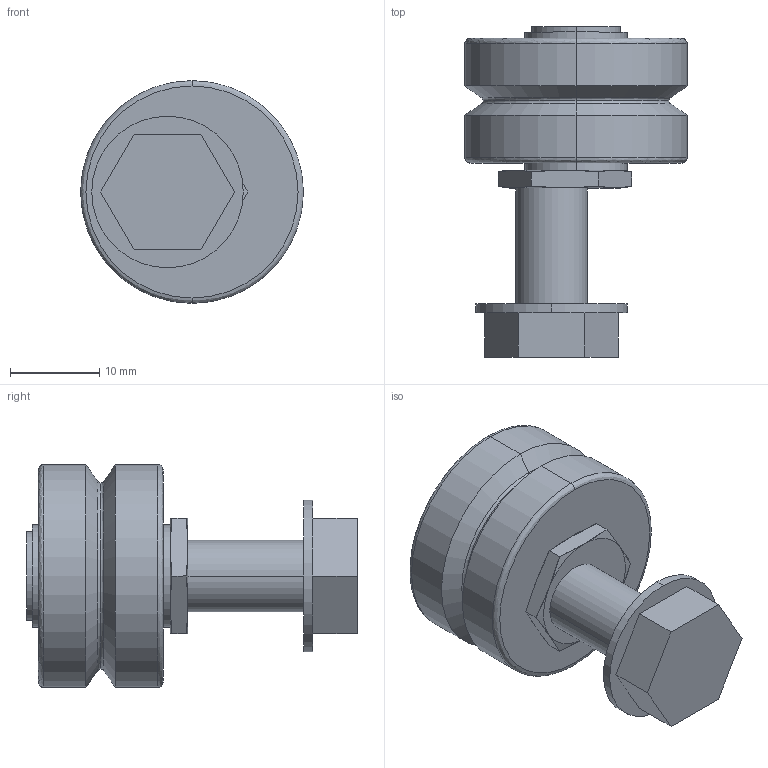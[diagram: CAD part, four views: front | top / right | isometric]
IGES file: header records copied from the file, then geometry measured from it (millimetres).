
Start section: 3D InterOp IGES (Version 21 0 1), Spatial Corp. Copyright (c) 1999-2007.
Global section: file name: RLFJ25DENS.igs; native system: Spatial Corp.; preprocessor: 3D InterOp GENERIC/IGES 3.0; author: Noname; organization: Noname; date: 20220627.163910; units: millimetre
Bounding box: 25 x 37.1 x 25 mm (x, y, z)
Surface area: 5452.9 mm2 (no closed solid volume)
Topology: 0 solids, 0 shells, 74 faces, 314 edges, 312 vertices
Faces by surface type: revolution 44, extrusion 30
